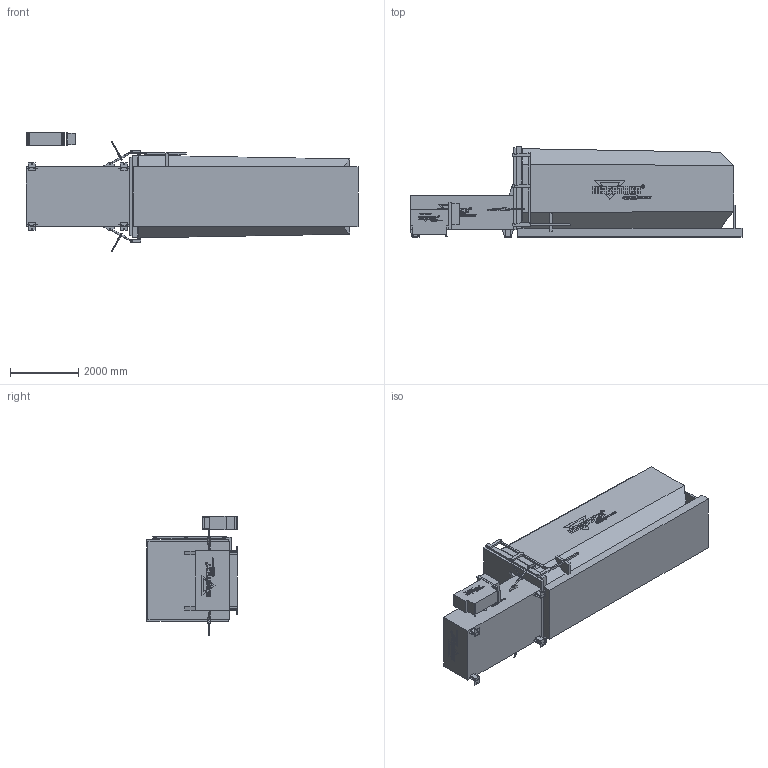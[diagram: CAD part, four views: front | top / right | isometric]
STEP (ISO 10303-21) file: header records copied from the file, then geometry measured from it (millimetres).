
FILE_DESCRIPTION((''),'2;1');
FILE_NAME('75351_ASM','2018-10-01T17:30:03',('10066402'),('HEIL Environmental Industries, Ltd.'),'CREO PARAMETRIC BY PTC INC, 2017110','CREO PARAMETRIC BY PTC INC, 2017110','');
FILE_SCHEMA(('CONFIG_CONTROL_DESIGN'));
Products named in the file (4): STRUCTURE_75351; OCT_CONTENOR_75351; POWERPACK_75351; 75351_ASM
Assembly tree (3 placements, depth 2):
  75351_ASM
    STRUCTURE_75351
    OCT_CONTENOR_75351
    POWERPACK_75351
Bounding box: 9734.61 x 2641.6 x 3514.08 mm (x, y, z)
Volume: 38505781268.5 mm3; surface area: 129895234.3 mm2
Topology: 4 solids, 8 shells, 4773 faces, 13124 edges, 8722 vertices
Faces by surface type: plane 4375, cylinder 398
Entity records: 149265 total; most frequent: CARTESIAN_POINT 26710, ORIENTED_EDGE 26248, DIRECTION 23489, EDGE_CURVE 13124, VECTOR 12271, LINE 12271, VERTEX_POINT 8722, AXIS2_PLACEMENT_3D 5609
